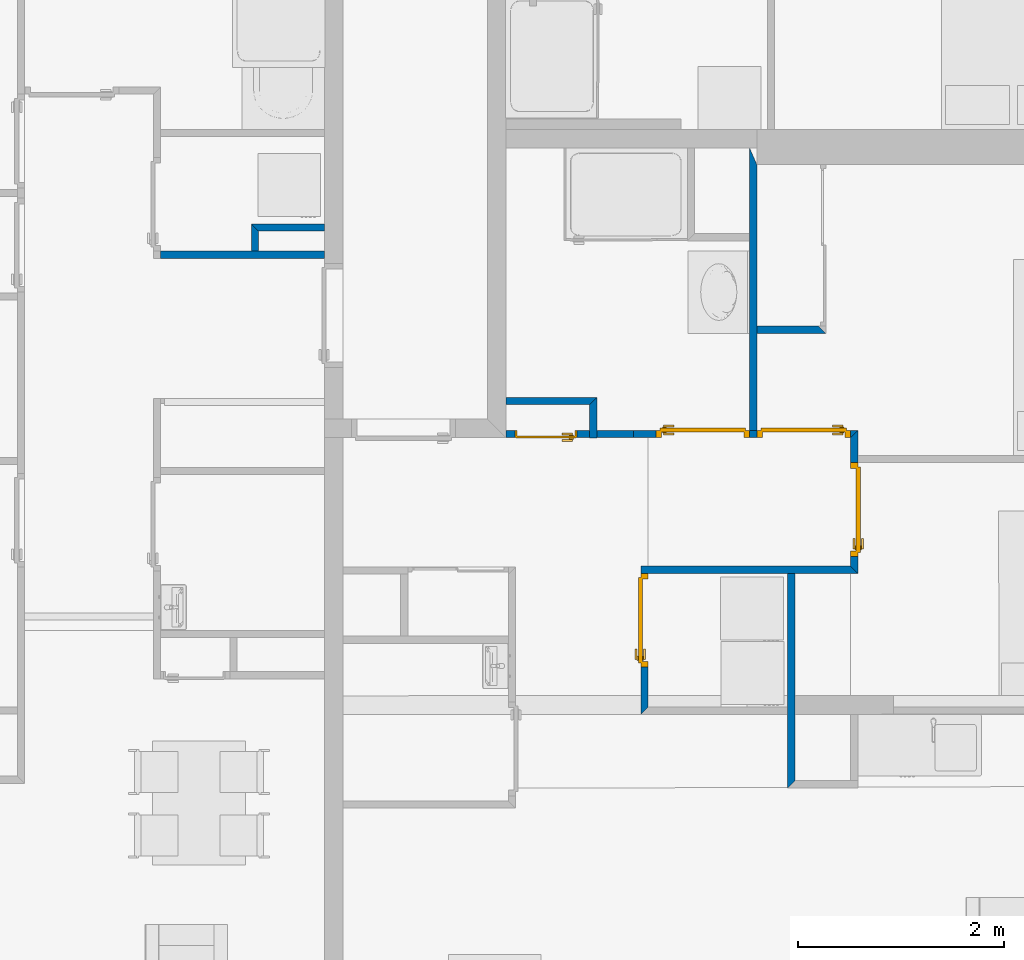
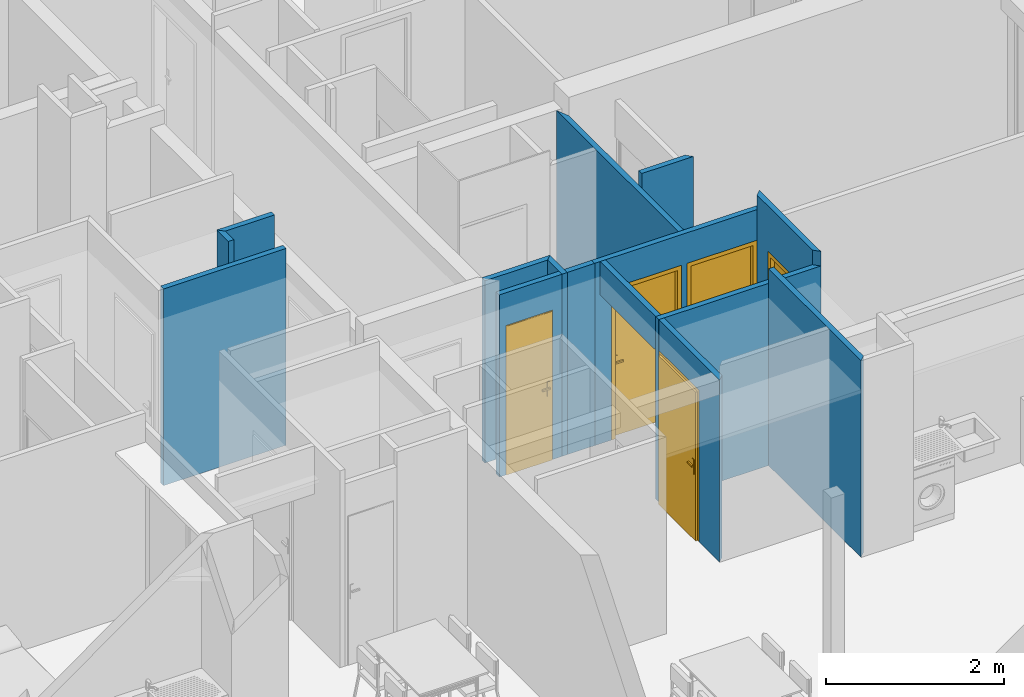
# One storey, part 32 of 171: 13 walls, 5 doors, 6 openings.
"""IFC2X3 building model written with IfcOpenShell, lengths in millimetres."""

from ifc_helpers import new_model, entity, si_unit, converted_unit, derived_unit, money_unit, direction, frame, origin_with_axes, origin_2d_with_axis, place, context, subcontext, project, spatial, polyline, rectangle, outline, extrude, faceted_brep, source, transform, mapped, material, layer, layer_set, layer_usage, type_object, element, fill, save


model = new_model("IFC2X3")

# Units and contexts
model_context = context("Model", 3, precision=0.01, world=origin_with_axes(), true_north=direction((0.0, 1.0)))
body_context = subcontext(model_context, "Body", "Model", "MODEL_VIEW")
ifc_project = project(units=[si_unit("LENGTHUNIT", "METRE", prefix="MILLI"), si_unit("AREAUNIT", "SQUARE_METRE"), si_unit("VOLUMEUNIT", "CUBIC_METRE"), converted_unit("PLANEANGLEUNIT", "DEGREE", entity("IfcPlaneAngleMeasure", 0.0174532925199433), si_unit("PLANEANGLEUNIT", "RADIAN"), dimensions=[0, 0, 0, 0, 0, 0, 0]), money_unit("USD"), converted_unit("TIMEUNIT", "Year", entity("IfcTimeMeasure", 31557600.0), si_unit("TIMEUNIT", "SECOND"), dimensions=[0, 0, 1, 0, 0, 0, 0]), si_unit("MASSUNIT", "GRAM", prefix="KILO"), si_unit("THERMODYNAMICTEMPERATUREUNIT", "DEGREE_CELSIUS"), si_unit("LUMINOUSINTENSITYUNIT", "LUMEN"), si_unit("ENERGYUNIT", "JOULE", prefix="MEGA"), derived_unit("THERMALCONDUCTANCEUNIT", [(si_unit("POWERUNIT", "WATT"), 1), (si_unit("LENGTHUNIT", "METRE"), -1), (si_unit("THERMODYNAMICTEMPERATUREUNIT", "KELVIN"), -1)]), derived_unit("SPECIFICHEATCAPACITYUNIT", [(si_unit("ENERGYUNIT", "JOULE"), 1), (si_unit("MASSUNIT", "GRAM", prefix="KILO"), -1), (si_unit("THERMODYNAMICTEMPERATUREUNIT", "KELVIN"), -1)]), derived_unit("MASSDENSITYUNIT", [(si_unit("MASSUNIT", "GRAM", prefix="KILO"), 1), (si_unit("VOLUMEUNIT", "CUBIC_METRE"), -1)])], contexts=[model_context])

# Site, building, storey
site_placement = place(None, origin_with_axes())
site = spatial("IfcSite", under=ifc_project, at=site_placement, Name="Site", CompositionType="ELEMENT")
building_placement = place(site_placement, origin_with_axes())
building = spatial("IfcBuilding", under=site, at=building_placement, Name="Bâtiment", CompositionType="ELEMENT")
storey_placement = place(building_placement, frame((0.0, 0.0, 3000.0), z_axis=(0.0, 0.0, 1.0), x_axis=(1.0, 0.0, 0.0)))
storey = spatial("IfcBuildingStorey", under=building, at=storey_placement, Name="rdc", CompositionType="ELEMENT", Elevation=3000.0)

# Walls
ifc_material = material(Name="Hachure solide 268963992")
ifc_layer = layer(ifc_material, 70.0, ventilated="UNKNOWN")
ifc_layer_set = layer_set([ifc_layer], Name="Cloison 70 0826278243")
ifc_layer_usage_1 = layer_usage(ifc_layer_set, "AXIS2", "POSITIVE", -70.0)
wall_type = type_object("IfcWallType", Name="Cloison 70 0826278243 70", PredefinedType="NOTDEFINED")
wall_1_placement = place(storey_placement, frame((2225892.31835671, -649338.3100869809, 0.0), z_axis=(0.0, 0.0, 1.0), x_axis=(0.999999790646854, -0.0006470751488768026, 0.0)))
element("IfcWallStandardCase", 1, at=wall_1_placement, inside=storey, type_object=wall_type, material=ifc_layer_usage_1, Name="Mur-149", context=body_context, shape_type="SweptSolid", body=[
    extrude(outline(polyline([(1.13686837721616e-10, -69.99999999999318), (812.3850241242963, -69.99999999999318), (882.3850284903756, 0.0), (0.0, 0.0), (1.13686837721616e-10, -69.99999999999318)])), origin_with_axes(), (0.0, 0.0, 1.0), 2500.0),
])
ifc_layer_usage_2 = layer_usage(ifc_layer_set, "AXIS2", "NEGATIVE", 70.0)
wall_2_placement = place(storey_placement, frame((2224312.363400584, -647918.5288603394, 0.0), z_axis=(0.0, 0.0, 1.0), x_axis=(-1.0, 0.0, 0.0)))
element("IfcWallStandardCase", 2, at=wall_2_placement, inside=storey, type_object=wall_type, material=ifc_layer_usage_2, Name="Mur-149", context=body_context, shape_type="SweptSolid", body=[
    extrude(outline(polyline([(179.9970910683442, 0.0), (1770.012000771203, 0.0), (1770.011990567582, 69.99999999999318), (179.9974301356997, 69.99999999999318), (179.9970910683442, 0.0)])), origin_with_axes(), (0.0, 0.0, 1.0), 2700.0),
])

# Wall, openings, doors
ifc_layer_usage_3 = layer_usage(ifc_layer_set, "AXIS2", "NEGATIVE", 70.0)
wall_3_placement = place(storey_placement, frame((2227132.330502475, -649729.592635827, 0.0), z_axis=(0.0, 0.0, 1.0), x_axis=(1.0, 0.0, 0.0)))
wall_3 = element("IfcWallStandardCase", 3, at=wall_3_placement, inside=storey, type_object=wall_type, material=ifc_layer_usage_3, Name="Mur-149", context=body_context, shape_type="SweptSolid", body=[
    extrude(outline(polyline([(0.0, 0.0), (2104.550040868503, 0.0), (2174.550473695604, 69.99999999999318), (0.0, 69.99999999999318), (0.0, 0.0)])), origin_with_axes(), (0.0, 0.0, 1.0), 2500.0),
])
opening_1_placement = place(wall_3_placement, frame((1649.550040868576, 0.0, 0.0), z_axis=(0.0, 0.0, 1.0), x_axis=(1.0, 0.0, 0.0)))
opening_1 = element("IfcOpeningElement", 4, at=opening_1_placement, cuts=wall_3, Name="Por-281", context=body_context, shape_type="SweptSolid", body=[
    extrude(rectangle(XDim=909.9999999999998, YDim=2080.0, at=origin_2d_with_axis()), frame((0.0, -69.99999999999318, 1040.0), z_axis=(0.0, -1.0, 0.0), x_axis=(-1.0, 0.0, 0.0)), (0.0, 0.0, -1.0), 140.0),
])
opening_2_placement = place(wall_3_placement, frame((669.5500408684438, 0.0, 0.0), z_axis=(0.0, 0.0, 1.0), x_axis=(1.0, 0.0, 0.0)))
opening_2 = element("IfcOpeningElement", 5, at=opening_2_placement, cuts=wall_3, Name="Por-282", context=body_context, shape_type="SweptSolid", body=[
    extrude(rectangle(XDim=909.9999999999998, YDim=2080.0, at=origin_2d_with_axis()), frame((0.0, -69.99999999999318, 1040.0), z_axis=(0.0, 1.0, 0.0), x_axis=(1.0, 0.0, 0.0)), (0.0, 0.0, 1.0), 140.0),
])
door_style = type_object("IfcDoorStyle", Name="Porte_1v", ConstructionType="NOTDEFINED", OperationType="NOTDEFINED", ParameterTakesPrecedence=False, Sizeable=False)
shared_shape_1 = source(origin_with_axes(), body_context, "Body", "Brep", [
    faceted_brep([(455.0, 0.0, 0.0), (415.0000000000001, 0.0, 0.0), (415.0000000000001, 0.0, 2040.0), (-415.0000000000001, 0.0, 2040.0), (-415.0000000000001, 0.0, 0.0), (-455.0, 0.0, 0.0), (-455.0, 0.0, 2080.0), (455.0, 0.0, 2080.0), (455.0, -70.0, 0.0), (400.0, -70.0, 0.0), (400.0, -15.0, 0.0), (415.0000000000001, -15.0, 0.0), (415.0000000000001, -15.0, 2040.0), (-415.0000000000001, -15.0, 2040.0), (-415.0000000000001, -15.0, 0.0), (-400.0, -15.0, 0.0), (-400.0, -70.0, 0.0), (-455.0, -70.0, 0.0), (-455.0, -70.0, 2080.0), (455.0, -70.0, 2080.0), (-400.0, -70.0, 2025.0), (400.0, -70.0, 2025.0), (400.0, -15.0, 2025.0), (-400.0, -15.0, 2025.0)], [[[0, 1, 2, 3, 4, 5, 6, 7]], [[0, 8, 9, 10, 11, 1]], [[1, 11, 12, 2]], [[2, 12, 13, 3]], [[3, 13, 14, 4]], [[5, 4, 14, 15, 16, 17]], [[18, 6, 5, 17]], [[19, 7, 6, 18]], [[8, 0, 7, 19]], [[9, 8, 19, 18, 17, 16, 20, 21]], [[10, 9, 21, 22]], [[11, 10, 22, 23, 15, 14, 13, 12]], [[23, 20, 16, 15]], [[22, 21, 20, 23]]]),
    faceted_brep([(-350.0000000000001, -15.0, 900.0), (-390.0, -15.0, 900.0), (-390.0, -15.0, 1100.0), (-350.0000000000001, -15.0, 1100.0), (-350.0000000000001, -25.0, 900.0), (-390.0, -25.0, 900.0), (-390.0, -25.0, 1100.0), (-350.0000000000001, -25.0, 1100.0)], [[[0, 1, 2, 3]], [[1, 0, 4, 5]], [[2, 1, 5, 6]], [[3, 2, 6, 7]], [[0, 3, 7, 4]], [[5, 4, 7, 6]]]),
    faceted_brep([(-280.0, -25.0, 1000.0), (-380.0, -25.0, 1000.0), (-380.0, -25.0, 1020.0), (-280.0, -25.0, 1020.0), (-280.0, -45.0, 1000.0), (-380.0, -45.0, 1000.0), (-380.0, -45.0, 1020.0), (-280.0, -45.0, 1020.0)], [[[0, 1, 2, 3]], [[1, 0, 4, 5]], [[2, 1, 5, 6]], [[3, 2, 6, 7]], [[0, 3, 7, 4]], [[5, 4, 7, 6]]]),
    faceted_brep([(-350.0000000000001, 35.0, 900.0), (-390.0, 35.0, 900.0), (-390.0, 35.0, 1100.0), (-350.0000000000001, 35.0, 1100.0), (-350.0000000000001, 25.0, 900.0), (-390.0, 25.0, 900.0), (-390.0, 25.0, 1100.0), (-350.0000000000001, 25.0, 1100.0)], [[[0, 1, 2, 3]], [[1, 0, 4, 5]], [[2, 1, 5, 6]], [[3, 2, 6, 7]], [[0, 3, 7, 4]], [[5, 4, 7, 6]]]),
    faceted_brep([(-280.0, 55.00000000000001, 1000.0), (-380.0, 55.00000000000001, 1000.0), (-380.0, 55.00000000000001, 1020.0), (-280.0, 55.00000000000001, 1020.0), (-280.0, 35.0, 1000.0), (-380.0, 35.0, 1000.0), (-380.0, 35.0, 1020.0), (-280.0, 35.0, 1020.0)], [[[0, 1, 2, 3]], [[1, 0, 4, 5]], [[2, 1, 5, 6]], [[3, 2, 6, 7]], [[0, 3, 7, 4]], [[5, 4, 7, 6]]]),
    faceted_brep([(-415.0000000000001, 25.0, 0.0), (415.0000000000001, 25.0, 0.0), (415.0000000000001, -15.0, 0.0), (-415.0000000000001, -15.0, 0.0), (-415.0000000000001, 25.0, 2040.0), (415.0000000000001, 25.0, 2040.0), (415.0000000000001, -15.0, 2040.0), (-415.0000000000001, -15.0, 2040.0)], [[[0, 1, 2, 3]], [[0, 4, 5, 1]], [[1, 5, 6, 2]], [[3, 2, 6, 7]], [[4, 0, 3, 7]], [[5, 4, 7, 6]]]),
])
door_1_placement = place(opening_2_placement, frame((-414.9999999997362, 0.0, 0.0), z_axis=(0.0, 0.0, 1.0), x_axis=(1.0, 0.0, 0.0)))
door_1 = element("IfcDoor", 6, at=door_1_placement, inside=storey, type_object=door_style, Name="Por-282", OverallHeight=2040.0, OverallWidth=830.0, context=body_context, shape_type="MappedRepresentation", body=[
    mapped(shared_shape_1, transform((414.9999999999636, 69.99999999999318, 0.0))),
])
fill(opening_2, door_1)
shared_shape_2 = source(origin_with_axes(), body_context, "Body", "Brep", [
    faceted_brep([(-454.9999999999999, 0.0, 0.0), (-454.9999999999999, 0.0, 2080.0), (454.9999999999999, 0.0, 2080.0), (454.9999999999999, 0.0, 0.0), (414.9999999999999, 0.0, 0.0), (414.9999999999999, 0.0, 2040.0), (-414.9999999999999, 0.0, 2040.0), (-414.9999999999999, 0.0, 0.0), (-454.9999999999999, -69.99999999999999, 0.0), (-454.9999999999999, -69.99999999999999, 2080.0), (454.9999999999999, -69.99999999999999, 2080.0), (454.9999999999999, -69.99999999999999, 0.0), (399.9999999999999, -69.99999999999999, 0.0), (399.9999999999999, -15.0, 0.0), (414.9999999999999, -15.0, 0.0), (414.9999999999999, -15.0, 2040.0), (-414.9999999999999, -14.99999999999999, 2040.0), (-414.9999999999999, -14.99999999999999, 0.0), (-399.9999999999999, -14.99999999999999, 0.0), (-399.9999999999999, -69.99999999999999, 0.0), (-399.9999999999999, -69.99999999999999, 2025.0), (399.9999999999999, -69.99999999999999, 2025.0), (399.9999999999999, -15.0, 2025.0), (-399.9999999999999, -14.99999999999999, 2025.0)], [[[0, 1, 2, 3, 4, 5, 6, 7]], [[8, 9, 1, 0]], [[9, 10, 2, 1]], [[10, 11, 3, 2]], [[3, 11, 12, 13, 14, 4]], [[5, 4, 14, 15]], [[6, 5, 15, 16]], [[7, 6, 16, 17]], [[0, 7, 17, 18, 19, 8]], [[19, 20, 21, 12, 11, 10, 9, 8]], [[22, 13, 12, 21]], [[17, 16, 15, 14, 13, 22, 23, 18]], [[18, 23, 20, 19]], [[23, 22, 21, 20]]]),
    faceted_brep([(350.0, -15.0, 900.0), (350.0, -15.0, 1100.0), (389.9999999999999, -15.0, 1100.0), (389.9999999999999, -15.0, 900.0), (350.0, -25.0, 900.0), (350.0, -25.0, 1100.0), (389.9999999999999, -25.0, 1100.0), (389.9999999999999, -25.0, 900.0)], [[[0, 1, 2, 3]], [[0, 4, 5, 1]], [[1, 5, 6, 2]], [[2, 6, 7, 3]], [[3, 7, 4, 0]], [[7, 6, 5, 4]]]),
    faceted_brep([(279.9999999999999, -25.0, 1000.0), (279.9999999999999, -25.0, 1020.0), (379.9999999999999, -25.0, 1020.0), (379.9999999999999, -25.0, 1000.0), (279.9999999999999, -45.0, 1000.0), (279.9999999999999, -45.0, 1020.0), (379.9999999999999, -45.0, 1020.0), (379.9999999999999, -45.0, 1000.0)], [[[0, 1, 2, 3]], [[0, 4, 5, 1]], [[1, 5, 6, 2]], [[2, 6, 7, 3]], [[3, 7, 4, 0]], [[7, 6, 5, 4]]]),
    faceted_brep([(350.0, 34.99999999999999, 900.0), (350.0, 34.99999999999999, 1100.0), (389.9999999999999, 34.99999999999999, 1100.0), (389.9999999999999, 34.99999999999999, 900.0), (350.0, 24.99999999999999, 900.0), (350.0, 24.99999999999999, 1100.0), (389.9999999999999, 24.99999999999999, 1100.0), (389.9999999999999, 24.99999999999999, 900.0)], [[[0, 1, 2, 3]], [[0, 4, 5, 1]], [[1, 5, 6, 2]], [[2, 6, 7, 3]], [[3, 7, 4, 0]], [[7, 6, 5, 4]]]),
    faceted_brep([(279.9999999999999, 54.99999999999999, 1000.0), (279.9999999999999, 54.99999999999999, 1020.0), (379.9999999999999, 54.99999999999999, 1020.0), (379.9999999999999, 54.99999999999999, 1000.0), (279.9999999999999, 34.99999999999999, 1000.0), (279.9999999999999, 34.99999999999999, 1020.0), (379.9999999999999, 34.99999999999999, 1020.0), (379.9999999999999, 34.99999999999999, 1000.0)], [[[0, 1, 2, 3]], [[0, 4, 5, 1]], [[1, 5, 6, 2]], [[2, 6, 7, 3]], [[3, 7, 4, 0]], [[7, 6, 5, 4]]]),
    faceted_brep([(414.9999999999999, 24.99999999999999, 0.0), (414.9999999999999, -15.0, 0.0), (-414.9999999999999, -14.99999999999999, 0.0), (-414.9999999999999, 25.0, 0.0), (414.9999999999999, 24.99999999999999, 2040.0), (414.9999999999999, -15.0, 2040.0), (-414.9999999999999, -14.99999999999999, 2040.0), (-414.9999999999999, 25.0, 2040.0)], [[[0, 1, 2, 3]], [[4, 5, 1, 0]], [[1, 5, 6, 2]], [[3, 2, 6, 7]], [[0, 3, 7, 4]], [[7, 6, 5, 4]]]),
])
door_2_placement = place(opening_1_placement, frame((-415.0000000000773, 0.0, 0.0), z_axis=(0.0, 0.0, 1.0), x_axis=(1.0, 0.0, 0.0)))
door_2 = element("IfcDoor", 7, at=door_2_placement, inside=storey, type_object=door_style, Name="Por-281", OverallHeight=2040.0, OverallWidth=830.0, context=body_context, shape_type="MappedRepresentation", body=[
    mapped(shared_shape_2, transform((414.9999999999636, 69.99999999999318, 0.0))),
])
fill(opening_1, door_2)

# Walls
ifc_layer_usage_4 = layer_usage(ifc_layer_set, "AXIS2", "POSITIVE", -70.0)
wall_4_placement = place(storey_placement, frame((2228326.880543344, -646738.4413036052, 0.0), z_axis=(0.0, 0.0, 1.0), x_axis=(0.0, -1.0, 0.0)))
element("IfcWallStandardCase", 8, at=wall_4_placement, inside=storey, type_object=wall_type, material=ifc_layer_usage_4, Name="Mur-149", context=body_context, shape_type="SweptSolid", body=[
    extrude(outline(polyline([(180.0000000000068, -70.00000000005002), (2921.151332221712, -70.00000000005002), (2921.151332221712, 0.0), (340.0000000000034, 0.0), (180.0000000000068, -70.00000000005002)])), origin_with_axes(), (0.0, 0.0, 1.0), 2500.0),
])
ifc_layer_usage_5 = layer_usage(ifc_layer_set, "AXIS2", "POSITIVE", -70.0)
wall_5_placement = place(storey_placement, frame((2228326.880543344, -648647.041211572, 0.0), z_axis=(0.0, 0.0, 1.0), x_axis=(1.0, 0.0, 0.0)))
element("IfcWallStandardCase", 9, at=wall_5_placement, inside=storey, type_object=wall_type, material=ifc_layer_usage_5, Name="Mur-149", context=body_context, shape_type="SweptSolid", body=[
    extrude(outline(polyline([(0.0, -69.99999999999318), (669.9999999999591, -69.99999999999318), (599.999999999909, 0.0), (0.0, 0.0), (0.0, -69.99999999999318)])), origin_with_axes(), (0.0, 0.0, 1.0), 2700.0),
])

# Wall, opening, door
ifc_layer_usage_6 = layer_usage(ifc_layer_set, "AXIS2", "NEGATIVE", 70.0)
wall_6_placement = place(storey_placement, frame((2225892.318356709, -649729.592635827, 0.0), z_axis=(0.0, 0.0, 1.0), x_axis=(1.0, 0.0, 0.0)))
wall_6 = element("IfcWallStandardCase", 10, at=wall_6_placement, inside=storey, type_object=wall_type, material=ifc_layer_usage_6, Name="Mur-149", context=body_context, shape_type="SweptSolid", body=[
    extrude(outline(polyline([(0.0, 0.0), (1240.012145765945, 0.0), (1240.012145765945, 69.99999999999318), (0.0, 69.99999999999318), (0.0, 0.0)])), origin_with_axes(), (0.0, 0.0, 1.0), 2500.0),
])
opening_3_placement = place(wall_6_placement, frame((389.9479966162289, 0.0, 0.0), z_axis=(0.0, 0.0, 1.0), x_axis=(1.0, 0.0, 0.0)))
opening_3 = element("IfcOpeningElement", 11, at=opening_3_placement, cuts=wall_6, Name="Por-274", context=body_context, shape_type="SweptSolid", body=[
    extrude(rectangle(XDim=599.9999999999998, YDim=2050.0, at=origin_2d_with_axis()), frame((0.0, 69.99999999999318, 1025.0), z_axis=(0.0, -1.0, 0.0), x_axis=(-1.0, 0.0, 0.0)), (0.0, 0.0, 1.0), 140.0),
])
shared_shape_3 = source(origin_with_axes(), body_context, "Body", "Brep", [
    faceted_brep([(300.0, 0.0, 0.0), (290.0, 0.0, 0.0), (290.0, 0.0, 2040.0), (-290.0, 0.0, 2040.0), (-290.0, 0.0, 0.0), (-300.0, 0.0, 0.0), (-300.0, 0.0, 2050.0), (300.0, 0.0, 2050.0), (300.0, -70.0, 0.0), (279.9999999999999, -70.0, 0.0), (279.9999999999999, -15.0, 0.0), (290.0, -15.0, 0.0), (290.0, -15.0, 2040.0), (-290.0, -15.0, 2040.0), (-290.0, -15.0, 0.0), (-279.9999999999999, -15.0, 0.0), (-279.9999999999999, -70.0, 0.0), (-300.0, -70.0, 0.0), (-300.0, -70.0, 2050.0), (300.0, -70.0, 2050.0), (-279.9999999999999, -70.0, 2030.0), (279.9999999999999, -70.0, 2030.0), (279.9999999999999, -15.0, 2030.0), (-279.9999999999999, -15.0, 2030.0)], [[[0, 1, 2, 3, 4, 5, 6, 7]], [[0, 8, 9, 10, 11, 1]], [[1, 11, 12, 2]], [[2, 12, 13, 3]], [[3, 13, 14, 4]], [[5, 4, 14, 15, 16, 17]], [[18, 6, 5, 17]], [[19, 7, 6, 18]], [[8, 0, 7, 19]], [[9, 8, 19, 18, 17, 16, 20, 21]], [[10, 9, 21, 22]], [[11, 10, 22, 23, 15, 14, 13, 12]], [[23, 20, 16, 15]], [[22, 21, 20, 23]]]),
    faceted_brep([(-224.9999999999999, -15.0, 900.0), (-264.9999999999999, -15.0, 900.0), (-264.9999999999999, -15.0, 1100.0), (-224.9999999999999, -15.0, 1100.0), (-224.9999999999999, -25.0, 900.0), (-264.9999999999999, -25.0, 900.0), (-264.9999999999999, -25.0, 1100.0), (-224.9999999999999, -25.0, 1100.0)], [[[0, 1, 2, 3]], [[1, 0, 4, 5]], [[2, 1, 5, 6]], [[3, 2, 6, 7]], [[0, 3, 7, 4]], [[5, 4, 7, 6]]]),
    faceted_brep([(-154.9999999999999, -25.0, 1000.0), (-254.9999999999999, -25.0, 1000.0), (-254.9999999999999, -25.0, 1020.0), (-154.9999999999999, -25.0, 1020.0), (-154.9999999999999, -45.0, 1000.0), (-254.9999999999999, -45.0, 1000.0), (-254.9999999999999, -45.0, 1020.0), (-154.9999999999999, -45.0, 1020.0)], [[[0, 1, 2, 3]], [[1, 0, 4, 5]], [[2, 1, 5, 6]], [[3, 2, 6, 7]], [[0, 3, 7, 4]], [[5, 4, 7, 6]]]),
    faceted_brep([(-224.9999999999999, 15.0, 900.0), (-264.9999999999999, 15.0, 900.0), (-264.9999999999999, 15.0, 1100.0), (-224.9999999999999, 15.0, 1100.0), (-224.9999999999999, 5.000000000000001, 900.0), (-264.9999999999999, 5.000000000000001, 900.0), (-264.9999999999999, 5.000000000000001, 1100.0), (-224.9999999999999, 5.000000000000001, 1100.0)], [[[0, 1, 2, 3]], [[1, 0, 4, 5]], [[2, 1, 5, 6]], [[3, 2, 6, 7]], [[0, 3, 7, 4]], [[5, 4, 7, 6]]]),
    faceted_brep([(-154.9999999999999, 35.0, 1000.0), (-254.9999999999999, 35.0, 1000.0), (-254.9999999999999, 35.0, 1020.0), (-154.9999999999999, 35.0, 1020.0), (-154.9999999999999, 15.0, 1000.0), (-254.9999999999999, 15.0, 1000.0), (-254.9999999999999, 15.0, 1020.0), (-154.9999999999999, 15.0, 1020.0)], [[[0, 1, 2, 3]], [[1, 0, 4, 5]], [[2, 1, 5, 6]], [[3, 2, 6, 7]], [[0, 3, 7, 4]], [[5, 4, 7, 6]]]),
    faceted_brep([(-290.0, 5.000000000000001, 0.0), (290.0, 5.000000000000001, 0.0), (290.0, -15.0, 0.0), (-290.0, -15.0, 0.0), (-290.0, 5.000000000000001, 2040.0), (290.0, 5.000000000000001, 2040.0), (290.0, -15.0, 2040.0), (-290.0, -15.0, 2040.0)], [[[0, 1, 2, 3]], [[0, 4, 5, 1]], [[1, 5, 6, 2]], [[3, 2, 6, 7]], [[4, 0, 3, 7]], [[5, 4, 7, 6]]]),
])
door_3_placement = place(opening_3_placement, frame((289.9999999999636, 0.0, 0.0), z_axis=(0.0, 0.0, 1.0), x_axis=(-1.0, 0.0, 0.0)))
door_3 = element("IfcDoor", 12, at=door_3_placement, inside=storey, type_object=door_style, Name="Por-274", OverallHeight=2040.0, OverallWidth=580.0, context=body_context, shape_type="MappedRepresentation", body=[
    mapped(shared_shape_3, transform((289.9999999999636, 0.0, 0.0))),
])
fill(opening_3, door_3)

# Wall
ifc_layer_usage_7 = layer_usage(ifc_layer_set, "AXIS2", "NEGATIVE", 70.0)
wall_7_placement = place(storey_placement, frame((2228626.87272935, -651044.9462383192, 0.0), z_axis=(0.0, 0.0, 1.0), x_axis=(3.922589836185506e-06, -0.9999999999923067, 0.0)))
element("IfcWallStandardCase", 13, at=wall_7_placement, inside=storey, type_object=wall_type, material=ifc_layer_usage_7, Name="Mur-149", context=body_context, shape_type="SweptSolid", body=[
    extrude(outline(polyline([(0.0, 0.0), (2081.99022384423, 0.0), (2011.990498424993, 70.00000000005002), (0.0002745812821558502, 69.99999999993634), (0.0, 0.0)])), origin_with_axes(), (0.0, 0.0, 1.0), 2700.0),
])

# Wall, openings, door
ifc_layer_usage_8 = layer_usage(ifc_layer_set, "AXIS2", "NEGATIVE", 70.0)
wall_8_placement = place(storey_placement, frame((2227202.351161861, -649728.742483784, 0.0), z_axis=(0.0, 0.0, 1.0), x_axis=(-6.942139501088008e-06, -0.9999999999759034, 0.0)))
wall_8 = element("IfcWallStandardCase", 14, at=wall_8_placement, inside=storey, type_object=wall_type, material=ifc_layer_usage_8, Name="Mur-149", context=body_context, shape_type="SweptSolid", body=[
    extrude(outline(polyline([(0.0, 0.0), (2684.562564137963, 0.0), (2614.562078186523, 69.99999999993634), (0.0, 69.99999999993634), (0.0, 0.0)])), origin_with_axes(), (0.0, 0.0, 1.0), 2500.0),
])
opening_4_placement = place(wall_8_placement, frame((622.6767840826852, 0.0, 0.0), z_axis=(0.0, 0.0, 1.0), x_axis=(1.0, 0.0, 0.0)))
element("IfcOpeningElement", 15, at=opening_4_placement, cuts=wall_8, Name="Por-283", context=body_context, shape_type="SweptSolid", body=[
    extrude(rectangle(XDim=1245.353512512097, YDim=2040.0, at=origin_2d_with_axis()), frame((0.0, 69.99999999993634, 1020.0), z_axis=(0.0, -1.0, 0.0), x_axis=(1.0, 0.0, 0.0)), (0.0, 0.0, -1.0), 70.0),
    extrude(rectangle(XDim=1245.353512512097, YDim=2040.0, at=origin_2d_with_axis()), frame((0.0, 70.00000000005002, 1020.0), z_axis=(0.0, 1.0, 0.0), x_axis=(1.0, 0.0, 0.0)), (0.0, 0.0, -1.0), 70.0),
])
opening_5_placement = place(wall_8_placement, frame((1771.203754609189, 0.0, 0.0), z_axis=(0.0, 0.0, 1.0), x_axis=(1.0, 0.0, 0.0)))
opening_5 = element("IfcOpeningElement", 16, at=opening_5_placement, cuts=wall_8, Name="Por-283", context=body_context, shape_type="SweptSolid", body=[
    extrude(rectangle(XDim=909.9999999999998, YDim=2080.0, at=origin_2d_with_axis()), frame((0.0, 69.99999999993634, 1040.0), z_axis=(0.0, -1.0, 0.0), x_axis=(-1.0, 0.0, 0.0)), (0.0, 0.0, 1.0), 140.0),
])
door_4_placement = place(opening_5_placement, frame((415.0000000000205, 0.0, 0.0), z_axis=(0.0, 0.0, 1.0), x_axis=(-1.0, 0.0, 0.0)))
door_4 = element("IfcDoor", 17, at=door_4_placement, inside=storey, type_object=door_style, Name="Por-283", OverallHeight=2040.0, OverallWidth=830.0, context=body_context, shape_type="MappedRepresentation", body=[
    mapped(shared_shape_1, transform((415.0000000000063, -1.13686837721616e-10, 0.0))),
])
fill(opening_5, door_4)

# Wall
ifc_layer_usage_9 = layer_usage(ifc_layer_set, "AXIS2", "NEGATIVE", 70.0)
wall_9_placement = place(storey_placement, frame((2227202.322335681, -651044.9462383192, 0.0), z_axis=(0.0, 0.0, 1.0), x_axis=(1.0, 0.0, 0.0)))
element("IfcWallStandardCase", 18, at=wall_9_placement, inside=storey, type_object=wall_type, material=ifc_layer_usage_9, Name="Mur-149", context=body_context, shape_type="SweptSolid", body=[
    extrude(outline(polyline([(0.0, 0.0), (2104.550074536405, 0.0), (2034.550507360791, 69.99999999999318), (0.0, 69.99999999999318), (0.0, 0.0)])), origin_with_axes(), (0.0, 0.0, 1.0), 2500.0),
])

# Wall, opening, door
ifc_layer_usage_10 = layer_usage(ifc_layer_set, "AXIS2", "NEGATIVE", 70.0)
wall_10_placement = place(storey_placement, frame((2229236.880543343, -649729.592635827, 0.0), z_axis=(0.0, 0.0, 1.0), x_axis=(-6.183224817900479e-06, -0.9999999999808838, 0.0)))
wall_10 = element("IfcWallStandardCase", 19, at=wall_10_placement, inside=storey, type_object=wall_type, material=ifc_layer_usage_10, Name="Mur-149", context=body_context, shape_type="SweptSolid", body=[
    extrude(outline(polyline([(0.0, 0.0), (1245.353602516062, 0.0), (1315.353169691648, 70.00000000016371), (-70.00043282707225, 70.00000000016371), (0.0, 0.0)])), origin_with_axes(), (0.0, 0.0, 1.0), 2700.0),
])
opening_6_placement = place(wall_10_placement, frame((697.9184357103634, 0.0, 0.0), z_axis=(0.0, 0.0, 1.0), x_axis=(1.0, 0.0, 0.0)))
opening_6 = element("IfcOpeningElement", 20, at=opening_6_placement, cuts=wall_10, Name="Por-282", context=body_context, shape_type="SweptSolid", body=[
    extrude(rectangle(XDim=909.9999999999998, YDim=2080.0, at=origin_2d_with_axis()), frame((0.0, -70.00000000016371, 1040.0), z_axis=(0.0, -1.0, 0.0), x_axis=(-1.0, 0.0, 0.0)), (0.0, 0.0, -1.0), 140.0),
])
door_5_placement = place(opening_6_placement, frame((-415.0000000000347, -2.273736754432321e-10, 0.0), z_axis=(0.0, 0.0, 1.0), x_axis=(1.0, 0.0, 0.0)))
door_5 = element("IfcDoor", 21, at=door_5_placement, inside=storey, type_object=door_style, Name="Por-282", OverallHeight=2040.0, OverallWidth=830.0, context=body_context, shape_type="MappedRepresentation", body=[
    mapped(shared_shape_2, transform((415.0000000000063, 69.99999999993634, 0.0))),
])
fill(opening_6, door_5)

# Walls
ifc_layer_usage_11 = layer_usage(ifc_layer_set, "AXIS2", "POSITIVE", -70.0)
wall_11_placement = place(storey_placement, frame((2226774.70320047, -649338.8810564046, 0.0), z_axis=(0.0, 0.0, 1.0), x_axis=(-0.0006471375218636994, -0.999999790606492, 0.0)))
element("IfcWallStandardCase", 22, at=wall_11_placement, inside=storey, type_object=wall_type, material=ifc_layer_usage_11, Name="Mur-149", context=body_context, shape_type="SweptSolid", body=[
    extrude(outline(polyline([(70.00000436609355, -70.00000000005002), (391.2824669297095, -69.99999999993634), (391.2824669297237, 0.0), (0.0, 0.0), (70.00000436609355, -70.00000000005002)])), origin_with_axes(), (0.0, 0.0, 1.0), 2500.0),
])
ifc_layer_usage_12 = layer_usage(ifc_layer_set, "AXIS2", "NEGATIVE", 70.0)
wall_12_placement = place(storey_placement, frame((2223493.047496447, -647725.9607160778, 0.0), z_axis=(0.0, 0.0, 1.0), x_axis=(1.0, 0.0, 0.0)))
element("IfcWallStandardCase", 23, at=wall_12_placement, inside=storey, type_object=wall_type, material=ifc_layer_usage_12, Name="Mur-149", context=body_context, shape_type="SweptSolid", body=[
    extrude(outline(polyline([(0.0, 0.0), (639.3197458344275, 0.0), (639.3200849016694, 69.99999999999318), (-69.93968711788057, 69.99999999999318), (0.0, 0.0)])), origin_with_axes(), (0.0, 0.0, 1.0), 3000.0),
])
ifc_layer_usage_13 = layer_usage(ifc_layer_set, "AXIS2", "POSITIVE", -70.0)
wall_13_placement = place(storey_placement, frame((2223493.047496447, -647725.9607160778, 0.0), z_axis=(0.0, 0.0, 1.0), x_axis=(-0.000861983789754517, -0.9999996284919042, 0.0)))
element("IfcWallStandardCase", 24, at=wall_13_placement, inside=storey, type_object=wall_type, material=ifc_layer_usage_13, Name="Mur-149", context=body_context, shape_type="SweptSolid", body=[
    extrude(outline(polyline([(-69.93968711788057, -69.99999999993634), (192.6285546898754, -69.99999999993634), (192.5682158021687, 1.13686837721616e-10), (0.0, 0.0), (-69.93968711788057, -69.99999999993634)])), origin_with_axes(), (0.0, 0.0, 1.0), 3000.0),
])

save(model, "model.ifc")
